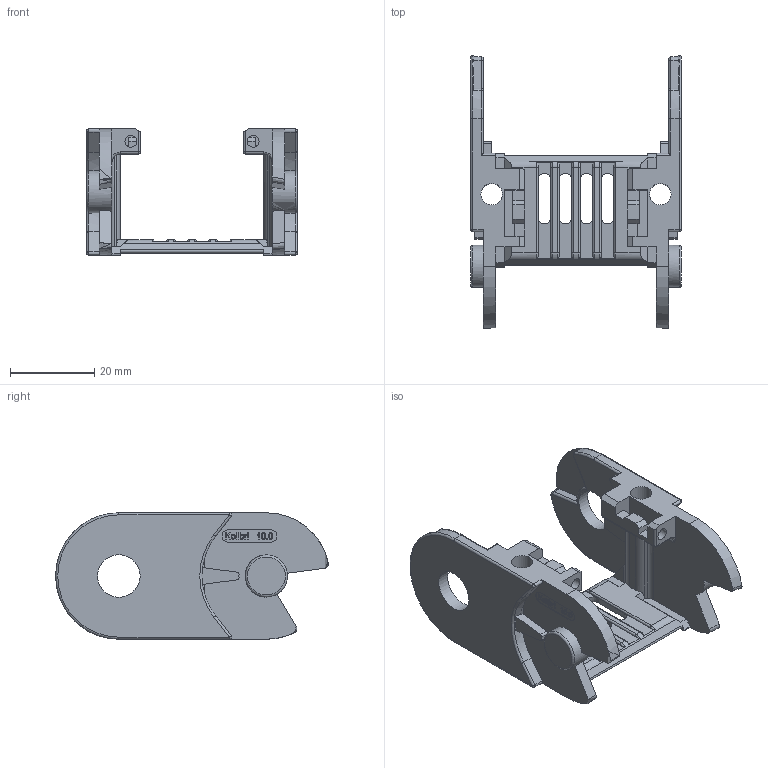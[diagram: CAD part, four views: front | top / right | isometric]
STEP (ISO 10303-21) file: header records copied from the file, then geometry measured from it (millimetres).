
FILE_DESCRIPTION((''),'2;1');
FILE_NAME('C:\Uebbing\PARAMETERKETTEN\KOLIBRI\Kol_30_050_1\Kol 30_050_1 Lasche.stp','2011-11-02T11:41:50',('Uebbing'),(''),'Autodesk Inventor 10','Autodesk Inventor 10','');
FILE_SCHEMA(('AUTOMOTIVE_DESIGN { 1 0 10303 214 1 1 1 1 }'));
Length unit declared in the file: millimetre
Products named in the file (1): Kol 30_050_1 Lasche
Bounding box: 50 x 64.71 x 30 mm (x, y, z)
Volume: 12834.8 mm3; surface area: 12071 mm2
Topology: 1 solids, 1 shells, 604 faces, 1651 edges, 1077 vertices
Faces by surface type: plane 306, cylinder 131, bspline 121, torus 38, sphere 4, cone 4
Full cylindrical faces by diameter (mm): 1.166 x1, 2.048 x1, 2.8 x4, 5.1 x2, 10 x1, 10.1 x2
Entity records: 20750 total; most frequent: CARTESIAN_POINT 5965, ORIENTED_EDGE 3252, DIRECTION 2770, EDGE_CURVE 1626, VERTEX_POINT 1072, VECTOR 990, LINE 990, AXIS2_PLACEMENT_3D 890
